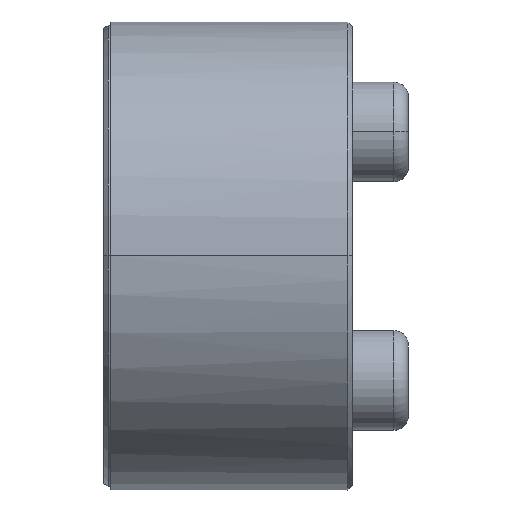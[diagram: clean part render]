
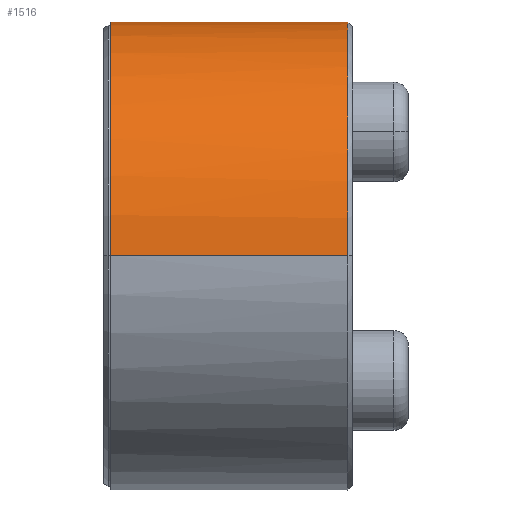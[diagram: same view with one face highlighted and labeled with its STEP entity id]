
A CAD part, top view. The second image highlights one B-rep face of the part: STEP entity #1516.
In plain terms, the highlighted cylindrical face has radius 16 mm (diameter 32 mm), a partial arc.
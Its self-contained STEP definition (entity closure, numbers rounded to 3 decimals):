
#1 = CARTESIAN_POINT ( 'NONE',  ( 0.483, 0., -16. ) ) ;
#149 = LINE ( 'NONE', #4048, #2988 ) ;
#330 = LINE ( 'NONE', #375, #1661 ) ;
#375 = CARTESIAN_POINT ( 'NONE',  ( 0.483, 0., -16. ) ) ;
#490 = DIRECTION ( 'NONE',  ( 0., -0.998, 0.062 ) ) ;
#508 = EDGE_CURVE ( 'NONE', #1171, #2477, #1711, .T. ) ;
#550 = CARTESIAN_POINT ( 'NONE',  ( 16.683, 0., 16. ) ) ;
#579 = CARTESIAN_POINT ( 'NONE',  ( 16.683, 8.058, 13.981 ) ) ;
#646 = CIRCLE ( 'NONE', #1924, 16. ) ;
#654 = ORIENTED_EDGE ( 'NONE', *, *, #3276, .F. ) ;
#801 = CYLINDRICAL_SURFACE ( 'NONE', #2921, 16. ) ;
#893 = CARTESIAN_POINT ( 'NONE',  ( 16.683, 16., -2.094 ) ) ;
#993 = VERTEX_POINT ( 'NONE', #1 ) ;
#1088 = CARTESIAN_POINT ( 'NONE',  ( 16.683, 0., -16. ) ) ;
#1117 = DIRECTION ( 'NONE',  ( 1., 0., 0. ) ) ;
#1160 = CARTESIAN_POINT ( 'NONE',  ( 16.683, 2.094, 16. ) ) ;
#1171 = VERTEX_POINT ( 'NONE', #2467 ) ;
#1181 = CARTESIAN_POINT ( 'NONE',  ( 0.483, 0., 16. ) ) ;
#1184 = CARTESIAN_POINT ( 'NONE',  ( 16.683, 15.584, -4.188 ) ) ;
#1221 = CARTESIAN_POINT ( 'NONE',  ( 16.683, 2.094, -16. ) ) ;
#1477 = CARTESIAN_POINT ( 'NONE',  ( 16.683, 9.833, 12.795 ) ) ;
#1481 = EDGE_CURVE ( 'NONE', #2284, #1171, #149, .T. ) ;
#1516 = ADVANCED_FACE ( 'NONE', ( #2616 ), #801, .T. ) ;
#1595 = DIRECTION ( 'NONE',  ( 1., 0., 0. ) ) ;
#1627 = EDGE_LOOP ( 'NONE', ( #4117, #654, #3383, #2209 ) ) ;
#1661 = VECTOR ( 'NONE', #1595, 1000. ) ;
#1711 = B_SPLINE_CURVE_WITH_KNOTS ( 'NONE', 3,
 ( #550, #1160, #3777, #579, #1477, #2825, #4056, #4037, #2116, #893, #1184, #3415, #3738, #3397, #3171, #2513, #1221, #1836 ),
 .UNSPECIFIED., .F., .F.,
 ( 4, 2, 2, 2, 2, 2, 2, 2, 4 ),
 ( 0.245, 0.309, 0.372, 0.436, 0.5, 0.564, 0.628, 0.691, 0.755 ),
 .UNSPECIFIED. ) ;
#1836 = CARTESIAN_POINT ( 'NONE',  ( 16.683, 0., -16. ) ) ;
#1924 = AXIS2_PLACEMENT_3D ( 'NONE', #3059, #2692, #490 ) ;
#2082 = DIRECTION ( 'NONE',  ( 0., 0., 1. ) ) ;
#2116 = CARTESIAN_POINT ( 'NONE',  ( 16.683, 16., 2.094 ) ) ;
#2125 = CARTESIAN_POINT ( 'NONE',  ( 0.483, 0., 0. ) ) ;
#2209 = ORIENTED_EDGE ( 'NONE', *, *, #508, .T. ) ;
#2284 = VERTEX_POINT ( 'NONE', #1181 ) ;
#2467 = CARTESIAN_POINT ( 'NONE',  ( 16.683, 0., 16. ) ) ;
#2477 = VERTEX_POINT ( 'NONE', #1088 ) ;
#2513 = CARTESIAN_POINT ( 'NONE',  ( 16.683, 4.188, -15.584 ) ) ;
#2616 = FACE_OUTER_BOUND ( 'NONE', #1627, .T. ) ;
#2692 = DIRECTION ( 'NONE',  ( -1., 0., 0. ) ) ;
#2825 = CARTESIAN_POINT ( 'NONE',  ( 16.683, 12.795, 9.833 ) ) ;
#2921 = AXIS2_PLACEMENT_3D ( 'NONE', #2125, #3701, #2082 ) ;
#2988 = VECTOR ( 'NONE', #1117, 1000. ) ;
#3059 = CARTESIAN_POINT ( 'NONE',  ( 0.483, 0., 0. ) ) ;
#3171 = CARTESIAN_POINT ( 'NONE',  ( 16.683, 8.058, -13.981 ) ) ;
#3276 = EDGE_CURVE ( 'NONE', #2284, #993, #646, .T. ) ;
#3383 = ORIENTED_EDGE ( 'NONE', *, *, #1481, .T. ) ;
#3397 = CARTESIAN_POINT ( 'NONE',  ( 16.683, 9.833, -12.795 ) ) ;
#3415 = CARTESIAN_POINT ( 'NONE',  ( 16.683, 13.981, -8.058 ) ) ;
#3701 = DIRECTION ( 'NONE',  ( 1., 0., 0. ) ) ;
#3738 = CARTESIAN_POINT ( 'NONE',  ( 16.683, 12.795, -9.833 ) ) ;
#3777 = CARTESIAN_POINT ( 'NONE',  ( 16.683, 4.188, 15.584 ) ) ;
#3890 = EDGE_CURVE ( 'NONE', #993, #2477, #330, .T. ) ;
#4037 = CARTESIAN_POINT ( 'NONE',  ( 16.683, 15.584, 4.188 ) ) ;
#4048 = CARTESIAN_POINT ( 'NONE',  ( 0.483, 0., 16. ) ) ;
#4056 = CARTESIAN_POINT ( 'NONE',  ( 16.683, 13.981, 8.058 ) ) ;
#4117 = ORIENTED_EDGE ( 'NONE', *, *, #3890, .F. ) ;
